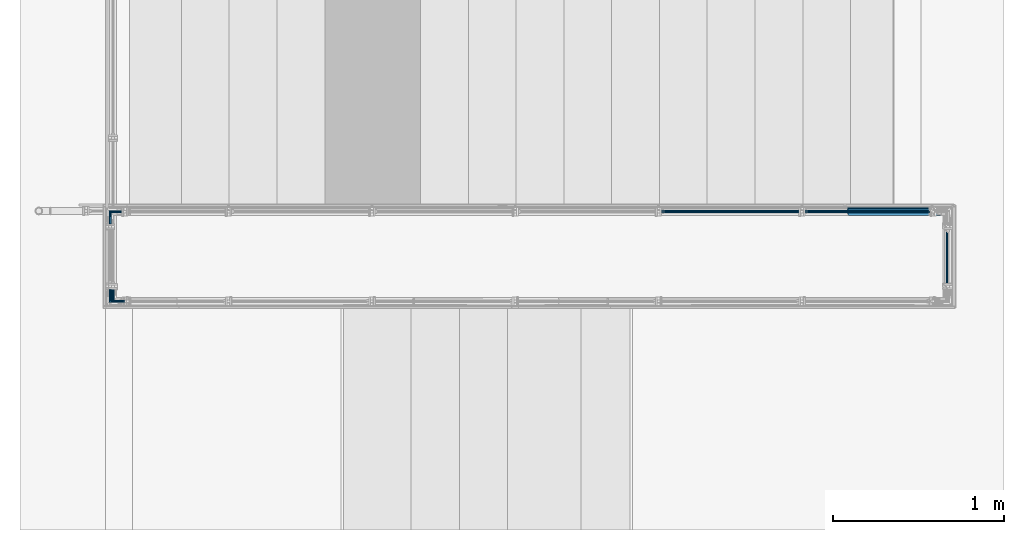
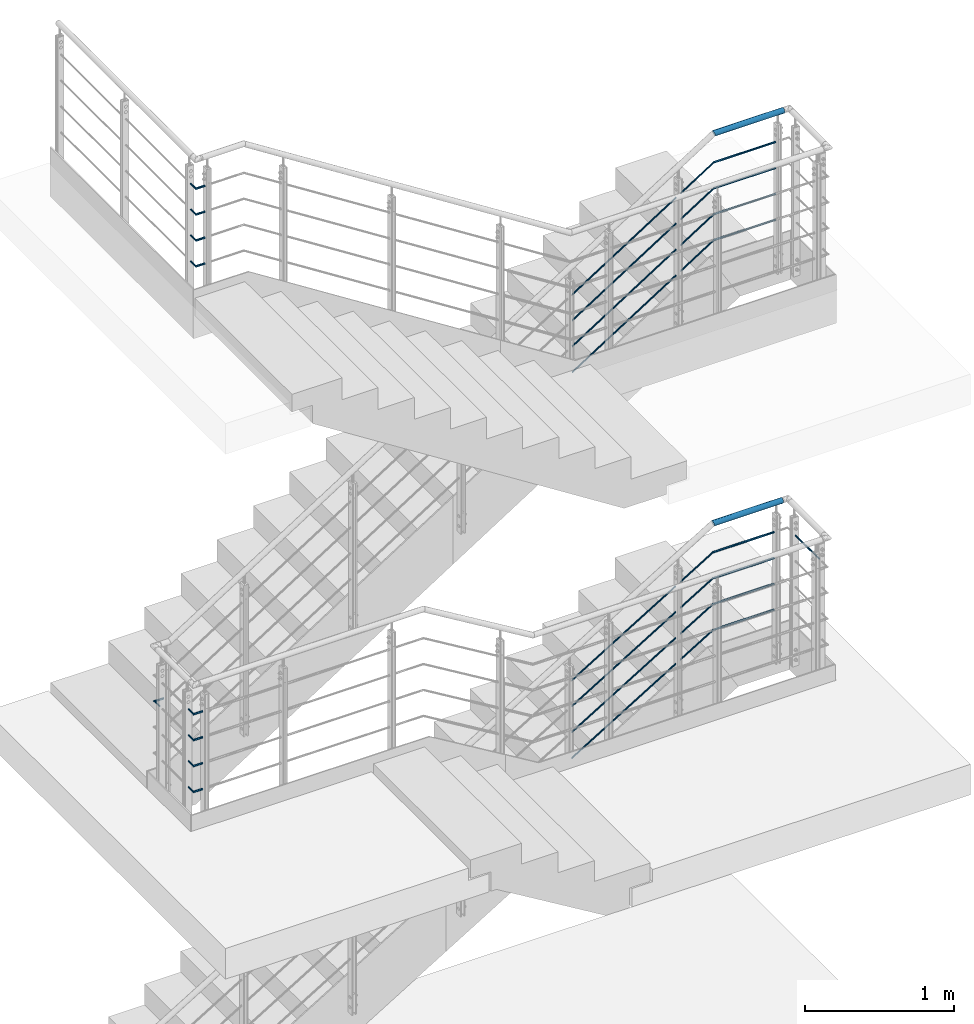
# One storey, part 14 of 98: 29 beams, 16 members.
"""IFC2X3 building model written with IfcOpenShell, lengths in millimetres."""

from ifc_helpers import new_model, entity, si_unit, converted_unit, frame, origin, origin_with_axes, origin_2d, place, context, project, spatial, circle, hollow_circle, extrude, clip, halfspace, material, element, save


model = new_model("IFC2X3")

# Units and contexts
model_context = context("Model", 3, precision=1e-09, world=origin_with_axes())
ifc_project = project(units=[si_unit("LENGTHUNIT", "METRE", prefix="MILLI"), si_unit("AREAUNIT", "SQUARE_METRE"), si_unit("VOLUMEUNIT", "CUBIC_METRE"), converted_unit("PLANEANGLEUNIT", "DEGREE", entity("IfcPlaneAngleMeasure", 0.01745329), si_unit("PLANEANGLEUNIT", "RADIAN"), dimensions=[0, 0, 0, 0, 0, 0, 0])], contexts=[model_context])

# Site, building, storey
site_placement = place(None, origin_with_axes())
site = spatial("IfcSite", under=ifc_project, at=site_placement, Name="Maybachstra?e 2, 71563 Affalterbach", CompositionType="ELEMENT")
building_placement = place(site_placement, origin_with_axes())
building = spatial("IfcBuilding", under=site, at=building_placement, Name="Struktur 1", CompositionType="ELEMENT")
storey_placement = place(building_placement, origin_with_axes())
storey = spatial("IfcBuildingStorey", under=building, at=storey_placement, Name="Default Storey", CompositionType="ELEMENT", Elevation=0.0)

# Beams
ifc_material_1 = material(Name="S235JR")
beam_1_placement = place(None, frame((7338.029157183, -501.25, 8323.799999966), z_axis=(0.0, 1.0, 0.0), x_axis=(0.0, 0.0, 1.0)))
element("IfcBeam", 1, at=beam_1_placement, inside=storey, material=ifc_material_1, Name="-", ObjectType="-", context=model_context, shape_type="Clipping", body=[
    clip(extrude(circle(Radius=6.0, at=origin_2d()), origin(), (0.0, 0.0, -1.0), 80.75), halfspace(frame((-8323.799999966, -3384.015285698, -3452.763871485), z_axis=(0.0, -0.707106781, 0.707106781), x_axis=(0.0, -0.707106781, -0.707106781)), True)),
])
beam_2_placement = place(None, frame((7321.028157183, -33.0, 4028.8), z_axis=(0.0, 1.0, 0.0), x_axis=(0.0, 0.0, 1.0)))
element("IfcBeam", 2, at=beam_2_placement, inside=storey, material=ifc_material_1, Name="-", ObjectType="-", context=model_context, shape_type="Clipping", body=[
    clip(extrude(circle(Radius=6.0, at=origin_2d()), origin(), (0.0, 0.0, -1.0), 80.75), halfspace(frame((-4028.8, -3683.014785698, 3671.013371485), z_axis=(0.0, -0.707106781, -0.707106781), x_axis=(0.0, 0.707106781, -0.707106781)), True)),
])
beam_3_placement = place(None, frame((7321.028157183, -500.25, 4028.8), z_axis=(0.0, 1.0, 0.0), x_axis=(0.0, 0.0, 1.0)))
element("IfcBeam", 3, at=beam_3_placement, inside=storey, material=ifc_material_1, Name="-", ObjectType="-", context=model_context, shape_type="Clipping", body=[
    clip(extrude(circle(Radius=6.0, at=origin_2d()), origin(), (0.0, 0.0, -1.0), 80.75), halfspace(frame((-4028.8, -3376.014785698, -3444.763371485), z_axis=(0.0, -0.707106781, 0.707106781), x_axis=(0.0, -0.707106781, -0.707106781)), True)),
])
beam_4_placement = place(None, frame((11640.370811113, -45.0, 6711.3), z_axis=(-1.0, 0.0, 0.0), x_axis=(0.0, -1.0, 0.0)))
element("IfcBeam", 4, at=beam_4_placement, inside=storey, material=ifc_material_1, Name="-", ObjectType="-", context=model_context, shape_type="Clipping", body=[
    clip(extrude(circle(Radius=6.0, at=origin_2d()), origin(), (0.0, 0.0, -1.0), 485.40834607), halfspace(frame((-45.0, -3058.045325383, -899.726744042), z_axis=(0.0, 0.279698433, -0.960087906), x_axis=(-1.0, 0.0, 0.0)), True)),
])
beam_5_placement = place(None, frame((7326.029157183, -570.0, 8323.799999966), z_axis=(-1.0, 0.0, 0.0), x_axis=(0.0, 0.0, -1.0)))
element("IfcBeam", 5, at=beam_5_placement, inside=storey, material=ifc_material_1, Name="-", ObjectType="-", context=model_context, shape_type="Clipping", body=[
    clip(extrude(circle(Radius=6.0, at=origin_2d()), origin(), (0.0, 0.0, -1.0), 80.75), halfspace(frame((8323.799999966, 3384.015285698, 3372.013871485), z_axis=(0.0, 0.707106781, -0.707106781), x_axis=(0.0, -0.707106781, -0.707106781)), True)),
])
beam_6_placement = place(None, frame((7309.028157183, -45.0, 4028.8), z_axis=(-1.0, 0.0, 0.0), x_axis=(0.0, -1.0, 0.0)))
element("IfcBeam", 6, at=beam_6_placement, inside=storey, material=ifc_material_1, Name="-", ObjectType="-", context=model_context, shape_type="Clipping", body=[
    clip(extrude(circle(Radius=6.0, at=origin_2d()), origin(), (0.0, 0.0, -1.0), 80.751), halfspace(frame((-3683.014785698, -4028.8, 3671.013371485), z_axis=(-0.707106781, 0.0, -0.707106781), x_axis=(-0.707106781, 0.0, 0.707106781)), True)),
])
beam_7_placement = place(None, frame((12118.779157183, -40.0, 3518.8), z_axis=(1.0, 0.0, 0.0), x_axis=(0.0, 1.0, 0.0)))
element("IfcBeam", 7, at=beam_7_placement, inside=storey, material=ifc_material_1, Name="-", ObjectType="-", context=model_context, shape_type="Clipping", body=[
    clip(extrude(circle(Radius=6.0, at=origin_2d()), origin(), (0.0, 0.0, -1.0), 481.615707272), halfspace(frame((40.0, -235.549386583, -406.770254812), z_axis=(0.0, 0.269926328, 0.962880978), x_axis=(1.0, 0.0, 0.0)), True)),
])

# Members
member_1_placement = place(None, frame((11653.504081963, -40.0, 3523.380801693), z_axis=(0.854279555, 0.0, 0.519813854), x_axis=(0.0, 1.0, 0.0)))
element("IfcMember", 8, at=member_1_placement, inside=storey, material=ifc_material_1, Name="-", ObjectType="-", context=model_context, shape_type="Clipping", body=[
    clip(clip(extrude(circle(Radius=6.0, at=origin_2d()), origin(), (0.0, 0.0, -1.0), 314.545987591), halfspace(frame((40.0, -235.549386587, -74.845452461), z_axis=(0.0, 0.269926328, -0.962880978), x_axis=(-1.0, 0.0, 0.0)), True)), halfspace(frame((40.0, -2874.684180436, -2053.806131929), z_axis=(0.0, -0.519813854, 0.854279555), x_axis=(1.0, 0.0, 0.0)), True)),
])
member_2_placement = place(None, frame((11365.264438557, -40.0, 3347.992125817), z_axis=(0.854279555, 0.0, 0.519813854), x_axis=(0.0, 1.0, 0.0)))
element("IfcMember", 9, at=member_2_placement, inside=storey, material=ifc_material_1, Name="-", ObjectType="-", context=model_context, shape_type="Clipping", body=[
    clip(clip(extrude(circle(Radius=6.0, at=origin_2d()), origin(), (0.0, 0.0, -1.0), 960.423971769), halfspace(frame((40.0, -2855.709935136, -1747.582346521), z_axis=(0.0, 0.519813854, -0.854279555), x_axis=(-1.0, 0.0, 0.0)), True)), halfspace(frame((40.0, -2438.040543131, -2433.994260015), z_axis=(0.0, -0.519813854, 0.854279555), x_axis=(1.0, 0.0, 0.0)), True)),
])
member_3_placement = place(None, frame((10544.793875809, -45.0, 6008.132360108), z_axis=(-0.843537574, 0.0, -0.537070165), x_axis=(0.0, -1.0, 0.0)))
element("IfcMember", 10, at=member_3_placement, inside=storey, material=ifc_material_1, Name="-", ObjectType="-", context=model_context, shape_type="Clipping", body=[
    clip(clip(extrude(circle(Radius=6.0, at=origin_2d()), origin(), (0.0, 0.0, -1.0), 972.654435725), halfspace(frame((-45.0, -5504.177925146, 2541.849385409), z_axis=(0.0, 0.537070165, 0.843537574), x_axis=(1.0, 0.0, 0.0)), True)), halfspace(frame((-45.0, -5072.643121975, 3219.630138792), z_axis=(0.0, -0.537070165, -0.843537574), x_axis=(-1.0, 0.0, 0.0)), True)),
])
member_4_placement = place(None, frame((11384.793875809, -45.0, 6542.950194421), z_axis=(-0.843537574, 0.0, -0.537070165), x_axis=(0.0, -1.0, 0.0)))
element("IfcMember", 11, at=member_4_placement, inside=storey, material=ifc_material_1, Name="-", ObjectType="-", context=model_context, shape_type="Clipping", body=[
    clip(clip(extrude(circle(Radius=6.0, at=origin_2d()), origin(), (0.0, 0.0, -1.0), 322.29763775), halfspace(frame((-45.0, -3058.045325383, 577.429106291), z_axis=(0.0, 0.279698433, 0.960087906), x_axis=(1.0, 0.0, 0.0)), True)), halfspace(frame((-45.0, -5523.782060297, 3506.864841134), z_axis=(0.0, -0.537070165, -0.843537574), x_axis=(-1.0, 0.0, 0.0)), True)),
])

# Beams
beam_8_placement = place(None, frame((7309.028157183, -569.0, 4028.8), z_axis=(-1.0, 0.0, 0.0), x_axis=(0.0, 0.0, -1.0)))
element("IfcBeam", 12, at=beam_8_placement, inside=storey, material=ifc_material_1, Name="-", ObjectType="-", context=model_context, shape_type="Clipping", body=[
    clip(extrude(circle(Radius=6.0, at=origin_2d()), origin(), (0.0, 0.0, -1.0), 80.751), halfspace(frame((4028.8, 3376.014785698, 3364.013371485), z_axis=(0.0, 0.707106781, -0.707106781), x_axis=(0.0, -0.707106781, -0.707106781)), True)),
])
beam_9_placement = place(None, frame((7338.029157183, -501.25, 7899.799999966), z_axis=(0.0, 1.0, 0.0), x_axis=(0.0, 0.0, 1.0)))
element("IfcBeam", 13, at=beam_9_placement, inside=storey, material=ifc_material_1, Name="-", ObjectType="-", context=model_context, shape_type="Clipping", body=[
    clip(extrude(circle(Radius=6.0, at=origin_2d()), origin(), (0.0, 0.0, -1.0), 80.75), halfspace(frame((-7899.799999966, -3384.015285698, -3452.763871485), z_axis=(0.0, -0.707106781, 0.707106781), x_axis=(0.0, -0.707106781, -0.707106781)), True)),
])
beam_10_placement = place(None, frame((7321.028157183, -500.25, 3604.8), z_axis=(0.0, 1.0, 0.0), x_axis=(0.0, 0.0, 1.0)))
element("IfcBeam", 14, at=beam_10_placement, inside=storey, material=ifc_material_1, Name="-", ObjectType="-", context=model_context, shape_type="Clipping", body=[
    clip(extrude(circle(Radius=6.0, at=origin_2d()), origin(), (0.0, 0.0, -1.0), 80.75), halfspace(frame((-3604.8, -3376.014785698, -3444.763371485), z_axis=(0.0, -0.707106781, 0.707106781), x_axis=(0.0, -0.707106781, -0.707106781)), True)),
])
beam_11_placement = place(None, frame((11640.370811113, -45.0, 6287.3), z_axis=(-1.0, 0.0, 0.0), x_axis=(0.0, -1.0, 0.0)))
element("IfcBeam", 15, at=beam_11_placement, inside=storey, material=ifc_material_1, Name="-", ObjectType="-", context=model_context, shape_type="Clipping", body=[
    clip(extrude(circle(Radius=6.0, at=origin_2d()), origin(), (0.0, 0.0, -1.0), 485.40834607), halfspace(frame((-45.0, -2667.215359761, -785.867869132), z_axis=(0.0, 0.279698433, -0.960087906), x_axis=(-1.0, 0.0, 0.0)), True)),
])
beam_12_placement = place(None, frame((7326.029157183, -570.0, 7899.799999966), z_axis=(-1.0, 0.0, 0.0), x_axis=(0.0, 0.0, -1.0)))
element("IfcBeam", 16, at=beam_12_placement, inside=storey, material=ifc_material_1, Name="-", ObjectType="-", context=model_context, shape_type="Clipping", body=[
    clip(extrude(circle(Radius=6.0, at=origin_2d()), origin(), (0.0, 0.0, -1.0), 80.75), halfspace(frame((7899.799999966, 3384.015285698, 3372.013871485), z_axis=(0.0, 0.707106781, -0.707106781), x_axis=(0.0, -0.707106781, -0.707106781)), True)),
])
beam_13_placement = place(None, frame((12118.779157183, -40.0, 3094.8), z_axis=(1.0, 0.0, 0.0), x_axis=(0.0, 1.0, 0.0)))
element("IfcBeam", 17, at=beam_13_placement, inside=storey, material=ifc_material_1, Name="-", ObjectType="-", context=model_context, shape_type="Clipping", body=[
    clip(extrude(circle(Radius=6.0, at=origin_2d()), origin(), (0.0, 0.0, -1.0), 481.615707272), halfspace(frame((40.0, 157.557878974, -516.970791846), z_axis=(0.0, 0.269926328, 0.962880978), x_axis=(1.0, 0.0, 0.0)), True)),
])

# Members
member_5_placement = place(None, frame((11653.504081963, -40.0, 3099.380801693), z_axis=(0.854279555, 0.0, 0.519813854), x_axis=(0.0, 1.0, 0.0)))
element("IfcMember", 18, at=member_5_placement, inside=storey, material=ifc_material_1, Name="-", ObjectType="-", context=model_context, shape_type="Clipping", body=[
    clip(clip(extrude(circle(Radius=6.0, at=origin_2d()), origin(), (0.0, 0.0, -1.0), 314.545987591), halfspace(frame((40.0, 157.55787897, 35.355084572), z_axis=(0.0, 0.269926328, -0.962880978), x_axis=(-1.0, 0.0, 0.0)), True)), halfspace(frame((40.0, -2512.469649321, -1833.405057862), z_axis=(0.0, -0.519813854, 0.854279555), x_axis=(1.0, 0.0, 0.0)), True)),
])
member_6_placement = place(None, frame((11365.264438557, -40.0, 2923.992125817), z_axis=(0.854279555, 0.0, 0.519813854), x_axis=(0.0, 1.0, 0.0)))
element("IfcMember", 19, at=member_6_placement, inside=storey, material=ifc_material_1, Name="-", ObjectType="-", context=model_context, shape_type="Clipping", body=[
    clip(clip(extrude(circle(Radius=6.0, at=origin_2d()), origin(), (0.0, 0.0, -1.0), 960.423971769), halfspace(frame((40.0, -2493.495404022, -1527.181272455), z_axis=(0.0, 0.519813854, -0.854279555), x_axis=(-1.0, 0.0, 0.0)), True)), halfspace(frame((40.0, -2075.826012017, -2213.593185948), z_axis=(0.0, -0.519813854, 0.854279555), x_axis=(1.0, 0.0, 0.0)), True)),
])
member_7_placement = place(None, frame((10544.793875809, -45.0, 5584.132360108), z_axis=(-0.843537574, 0.0, -0.537070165), x_axis=(0.0, -1.0, 0.0)))
element("IfcMember", 20, at=member_7_placement, inside=storey, material=ifc_material_1, Name="-", ObjectType="-", context=model_context, shape_type="Clipping", body=[
    clip(clip(extrude(circle(Radius=6.0, at=origin_2d()), origin(), (0.0, 0.0, -1.0), 972.654435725), halfspace(frame((-45.0, -5146.517993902, 2314.13163559), z_axis=(0.0, 0.537070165, 0.843537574), x_axis=(1.0, 0.0, 0.0)), True)), halfspace(frame((-45.0, -4714.983190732, 2991.912388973), z_axis=(0.0, -0.537070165, -0.843537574), x_axis=(-1.0, 0.0, 0.0)), True)),
])
member_8_placement = place(None, frame((11384.793875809, -45.0, 6118.950194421), z_axis=(-0.843537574, 0.0, -0.537070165), x_axis=(0.0, -1.0, 0.0)))
element("IfcMember", 21, at=member_8_placement, inside=storey, material=ifc_material_1, Name="-", ObjectType="-", context=model_context, shape_type="Clipping", body=[
    clip(clip(extrude(circle(Radius=6.0, at=origin_2d()), origin(), (0.0, 0.0, -1.0), 322.29763775), halfspace(frame((-45.0, -2667.215359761, 463.570231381), z_axis=(0.0, 0.279698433, 0.960087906), x_axis=(1.0, 0.0, 0.0)), True)), halfspace(frame((-45.0, -5166.122129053, 3279.147091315), z_axis=(0.0, -0.537070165, -0.843537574), x_axis=(-1.0, 0.0, 0.0)), True)),
])

# Beams
beam_14_placement = place(None, frame((7309.028157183, -569.0, 3604.8), z_axis=(-1.0, 0.0, 0.0), x_axis=(0.0, 0.0, -1.0)))
element("IfcBeam", 22, at=beam_14_placement, inside=storey, material=ifc_material_1, Name="-", ObjectType="-", context=model_context, shape_type="Clipping", body=[
    clip(extrude(circle(Radius=6.0, at=origin_2d()), origin(), (0.0, 0.0, -1.0), 80.751), halfspace(frame((3604.8, 3376.014785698, 3364.013371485), z_axis=(0.0, 0.707106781, -0.707106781), x_axis=(0.0, -0.707106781, -0.707106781)), True)),
])
beam_15_placement = place(None, frame((7338.029157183, -501.25, 8111.799999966), z_axis=(0.0, 1.0, 0.0), x_axis=(0.0, 0.0, 1.0)))
element("IfcBeam", 23, at=beam_15_placement, inside=storey, material=ifc_material_1, Name="-", ObjectType="-", context=model_context, shape_type="Clipping", body=[
    clip(extrude(circle(Radius=6.0, at=origin_2d()), origin(), (0.0, 0.0, -1.0), 80.75), halfspace(frame((-8111.799999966, -3384.015285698, -3452.763871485), z_axis=(0.0, -0.707106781, 0.707106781), x_axis=(0.0, -0.707106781, -0.707106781)), True)),
])
beam_16_placement = place(None, frame((7321.028157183, -500.25, 3816.8), z_axis=(0.0, 1.0, 0.0), x_axis=(0.0, 0.0, 1.0)))
element("IfcBeam", 24, at=beam_16_placement, inside=storey, material=ifc_material_1, Name="-", ObjectType="-", context=model_context, shape_type="Clipping", body=[
    clip(extrude(circle(Radius=6.0, at=origin_2d()), origin(), (0.0, 0.0, -1.0), 80.75), halfspace(frame((-3816.8, -3376.014785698, -3444.763371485), z_axis=(0.0, -0.707106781, 0.707106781), x_axis=(0.0, -0.707106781, -0.707106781)), True)),
])
beam_17_placement = place(None, frame((11640.370811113, -45.0, 6499.3), z_axis=(-1.0, 0.0, 0.0), x_axis=(0.0, -1.0, 0.0)))
element("IfcBeam", 25, at=beam_17_placement, inside=storey, material=ifc_material_1, Name="-", ObjectType="-", context=model_context, shape_type="Clipping", body=[
    clip(extrude(circle(Radius=6.0, at=origin_2d()), origin(), (0.0, 0.0, -1.0), 485.40834607), halfspace(frame((-45.0, -2862.630342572, -842.797306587), z_axis=(0.0, 0.279698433, -0.960087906), x_axis=(-1.0, 0.0, 0.0)), True)),
])
beam_18_placement = place(None, frame((7326.029157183, -570.0, 8111.799999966), z_axis=(-1.0, 0.0, 0.0), x_axis=(0.0, 0.0, -1.0)))
element("IfcBeam", 26, at=beam_18_placement, inside=storey, material=ifc_material_1, Name="-", ObjectType="-", context=model_context, shape_type="Clipping", body=[
    clip(extrude(circle(Radius=6.0, at=origin_2d()), origin(), (0.0, 0.0, -1.0), 80.75), halfspace(frame((8111.799999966, 3384.015285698, 3372.013871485), z_axis=(0.0, 0.707106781, -0.707106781), x_axis=(0.0, -0.707106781, -0.707106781)), True)),
])
beam_19_placement = place(None, frame((12118.779157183, -40.0, 3306.8), z_axis=(1.0, 0.0, 0.0), x_axis=(0.0, 1.0, 0.0)))
element("IfcBeam", 27, at=beam_19_placement, inside=storey, material=ifc_material_1, Name="-", ObjectType="-", context=model_context, shape_type="Clipping", body=[
    clip(extrude(circle(Radius=6.0, at=origin_2d()), origin(), (0.0, 0.0, -1.0), 481.615707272), halfspace(frame((40.0, -38.995753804, -461.870523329), z_axis=(0.0, 0.269926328, 0.962880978), x_axis=(1.0, 0.0, 0.0)), True)),
])

# Members
member_9_placement = place(None, frame((11653.504081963, -40.0, 3311.380801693), z_axis=(0.854279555, 0.0, 0.519813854), x_axis=(0.0, 1.0, 0.0)))
element("IfcMember", 28, at=member_9_placement, inside=storey, material=ifc_material_1, Name="-", ObjectType="-", context=model_context, shape_type="Clipping", body=[
    clip(clip(extrude(circle(Radius=6.0, at=origin_2d()), origin(), (0.0, 0.0, -1.0), 314.545987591), halfspace(frame((40.0, -38.995753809, -19.745183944), z_axis=(0.0, 0.269926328, -0.962880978), x_axis=(-1.0, 0.0, 0.0)), True)), halfspace(frame((40.0, -2693.576914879, -1943.605594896), z_axis=(0.0, -0.519813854, 0.854279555), x_axis=(1.0, 0.0, 0.0)), True)),
])
member_10_placement = place(None, frame((11365.264438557, -40.0, 3135.992125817), z_axis=(0.854279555, 0.0, 0.519813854), x_axis=(0.0, 1.0, 0.0)))
element("IfcMember", 29, at=member_10_placement, inside=storey, material=ifc_material_1, Name="-", ObjectType="-", context=model_context, shape_type="Clipping", body=[
    clip(clip(extrude(circle(Radius=6.0, at=origin_2d()), origin(), (0.0, 0.0, -1.0), 960.423971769), halfspace(frame((40.0, -2674.602669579, -1637.381809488), z_axis=(0.0, 0.519813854, -0.854279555), x_axis=(-1.0, 0.0, 0.0)), True)), halfspace(frame((40.0, -2256.933277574, -2323.793722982), z_axis=(0.0, -0.519813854, 0.854279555), x_axis=(1.0, 0.0, 0.0)), True)),
])
member_11_placement = place(None, frame((10544.793875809, -45.0, 5796.132360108), z_axis=(-0.843537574, 0.0, -0.537070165), x_axis=(0.0, -1.0, 0.0)))
element("IfcMember", 30, at=member_11_placement, inside=storey, material=ifc_material_1, Name="-", ObjectType="-", context=model_context, shape_type="Clipping", body=[
    clip(clip(extrude(circle(Radius=6.0, at=origin_2d()), origin(), (0.0, 0.0, -1.0), 972.654435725), halfspace(frame((-45.0, -5325.347959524, 2427.990510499), z_axis=(0.0, 0.537070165, 0.843537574), x_axis=(1.0, 0.0, 0.0)), True)), halfspace(frame((-45.0, -4893.813156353, 3105.771263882), z_axis=(0.0, -0.537070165, -0.843537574), x_axis=(-1.0, 0.0, 0.0)), True)),
])
member_12_placement = place(None, frame((11384.793875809, -45.0, 6330.950194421), z_axis=(-0.843537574, 0.0, -0.537070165), x_axis=(0.0, -1.0, 0.0)))
element("IfcMember", 31, at=member_12_placement, inside=storey, material=ifc_material_1, Name="-", ObjectType="-", context=model_context, shape_type="Clipping", body=[
    clip(clip(extrude(circle(Radius=6.0, at=origin_2d()), origin(), (0.0, 0.0, -1.0), 322.29763775), halfspace(frame((-45.0, -2862.630342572, 520.499668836), z_axis=(0.0, 0.279698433, 0.960087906), x_axis=(1.0, 0.0, 0.0)), True)), halfspace(frame((-45.0, -5344.952094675, 3393.005966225), z_axis=(0.0, -0.537070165, -0.843537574), x_axis=(-1.0, 0.0, 0.0)), True)),
])

# Beams
beam_20_placement = place(None, frame((7309.028157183, -569.0, 3816.8), z_axis=(-1.0, 0.0, 0.0), x_axis=(0.0, 0.0, -1.0)))
element("IfcBeam", 32, at=beam_20_placement, inside=storey, material=ifc_material_1, Name="-", ObjectType="-", context=model_context, shape_type="Clipping", body=[
    clip(extrude(circle(Radius=6.0, at=origin_2d()), origin(), (0.0, 0.0, -1.0), 80.751), halfspace(frame((3816.8, 3376.014785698, 3364.013371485), z_axis=(0.0, 0.707106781, -0.707106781), x_axis=(0.0, -0.707106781, -0.707106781)), True)),
])
ifc_material_2 = material(Name="1.4301")
beam_21_placement = place(None, frame((11617.981146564, -45.0, 7161.3), z_axis=(-1.0, 0.0, 0.0), x_axis=(0.0, -1.0, 0.0)))
element("IfcBeam", 33, at=beam_21_placement, inside=storey, material=ifc_material_2, Name="-", ObjectType="-", context=model_context, shape_type="Clipping", body=[
    clip(extrude(hollow_circle(Radius=21.2, WallThickness=3.0, at=origin_2d()), origin(), (0.0, 0.0, -1.0), 569.251010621), halfspace(frame((-45.0, -3472.841279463, -1042.957195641), z_axis=(0.0, 0.279698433, -0.960087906), x_axis=(-1.0, 0.0, 0.0)), True)),
])
beam_22_placement = place(None, frame((12180.232157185, -40.0, 3968.8), z_axis=(1.0, 0.0, 0.0), x_axis=(0.0, 1.0, 0.0)))
element("IfcBeam", 34, at=beam_22_placement, inside=storey, material=ifc_material_2, Name="-", ObjectType="-", context=model_context, shape_type="Clipping", body=[
    clip(extrude(hollow_circle(Radius=21.2, WallThickness=3.0, at=origin_2d()), origin(), (0.0, 0.0, -1.0), 565.393425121), halfspace(frame((40.0, -652.762286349, -351.26513768), z_axis=(0.0, 0.269926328, 0.962880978), x_axis=(1.0, 0.0, 0.0)), True)),
])
beam_23_placement = place(None, frame((7326.029157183, -570.0, 8535.799999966), z_axis=(-1.0, 0.0, 0.0), x_axis=(0.0, 0.0, -1.0)))
element("IfcBeam", 35, at=beam_23_placement, inside=storey, material=ifc_material_1, Name="-", ObjectType="-", context=model_context, shape_type="Clipping", body=[
    clip(extrude(circle(Radius=6.0, at=origin_2d()), origin(), (0.0, 0.0, -1.0), 80.75), halfspace(frame((8535.799999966, 3384.015285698, 3372.013871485), z_axis=(0.0, 0.707106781, -0.707106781), x_axis=(0.0, -0.707106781, -0.707106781)), True)),
])
beam_24_placement = place(None, frame((11640.370811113, -45.0, 6923.3), z_axis=(-1.0, 0.0, 0.0), x_axis=(0.0, -1.0, 0.0)))
element("IfcBeam", 36, at=beam_24_placement, inside=storey, material=ifc_material_1, Name="-", ObjectType="-", context=model_context, shape_type="Clipping", body=[
    clip(extrude(circle(Radius=6.0, at=origin_2d()), origin(), (0.0, 0.0, -1.0), 485.40834607), halfspace(frame((-45.0, -3253.460308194, -956.656181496), z_axis=(0.0, 0.279698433, -0.960087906), x_axis=(-1.0, 0.0, 0.0)), True)),
])

# Members
member_13_placement = place(None, frame((10544.793875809, -45.0, 6220.132360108), z_axis=(-0.843537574, 0.0, -0.537070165), x_axis=(0.0, -1.0, 0.0)))
element("IfcMember", 37, at=member_13_placement, inside=storey, material=ifc_material_1, Name="-", ObjectType="-", context=model_context, shape_type="Clipping", body=[
    clip(clip(extrude(circle(Radius=6.0, at=origin_2d()), origin(), (0.0, 0.0, -1.0), 972.654435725), halfspace(frame((-45.0, -5683.007890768, 2655.708260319), z_axis=(0.0, 0.537070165, 0.843537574), x_axis=(1.0, 0.0, 0.0)), True)), halfspace(frame((-45.0, -5251.473087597, 3333.489013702), z_axis=(0.0, -0.537070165, -0.843537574), x_axis=(-1.0, 0.0, 0.0)), True)),
])
member_14_placement = place(None, frame((11384.793875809, -45.0, 6754.950194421), z_axis=(-0.843537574, 0.0, -0.537070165), x_axis=(0.0, -1.0, 0.0)))
element("IfcMember", 38, at=member_14_placement, inside=storey, material=ifc_material_1, Name="-", ObjectType="-", context=model_context, shape_type="Clipping", body=[
    clip(clip(extrude(circle(Radius=6.0, at=origin_2d()), origin(), (0.0, 0.0, -1.0), 322.29763775), halfspace(frame((-45.0, -3253.460308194, 634.358543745), z_axis=(0.0, 0.279698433, 0.960087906), x_axis=(1.0, 0.0, 0.0)), True)), halfspace(frame((-45.0, -5702.612025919, 3620.723716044), z_axis=(0.0, -0.537070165, -0.843537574), x_axis=(-1.0, 0.0, 0.0)), True)),
])

# Beams
beam_25_placement = place(None, frame((7309.028157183, -569.0, 4240.8), z_axis=(-1.0, 0.0, 0.0), x_axis=(0.0, 0.0, -1.0)))
element("IfcBeam", 39, at=beam_25_placement, inside=storey, material=ifc_material_1, Name="-", ObjectType="-", context=model_context, shape_type="Clipping", body=[
    clip(extrude(circle(Radius=6.0, at=origin_2d()), origin(), (0.0, 0.0, -1.0), 80.751), halfspace(frame((4240.8, 3376.014785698, 3364.013371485), z_axis=(0.0, 0.707106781, -0.707106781), x_axis=(0.0, -0.707106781, -0.707106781)), True)),
])
beam_26_placement = place(None, frame((12118.779157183, -40.0, 3730.8), z_axis=(1.0, 0.0, 0.0), x_axis=(0.0, 1.0, 0.0)))
element("IfcBeam", 40, at=beam_26_placement, inside=storey, material=ifc_material_1, Name="-", ObjectType="-", context=model_context, shape_type="Clipping", body=[
    clip(extrude(circle(Radius=6.0, at=origin_2d()), origin(), (0.0, 0.0, -1.0), 481.615707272), halfspace(frame((40.0, -432.103019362, -351.669986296), z_axis=(0.0, 0.269926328, 0.962880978), x_axis=(1.0, 0.0, 0.0)), True)),
])

# Members
member_15_placement = place(None, frame((11653.504081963, -40.0, 3735.380801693), z_axis=(0.854279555, 0.0, 0.519813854), x_axis=(0.0, 1.0, 0.0)))
element("IfcMember", 41, at=member_15_placement, inside=storey, material=ifc_material_1, Name="-", ObjectType="-", context=model_context, shape_type="Clipping", body=[
    clip(clip(extrude(circle(Radius=6.0, at=origin_2d()), origin(), (0.0, 0.0, -1.0), 314.545987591), halfspace(frame((40.0, -432.103019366, -129.945720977), z_axis=(0.0, 0.269926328, -0.962880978), x_axis=(-1.0, 0.0, 0.0)), True)), halfspace(frame((40.0, -3055.791445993, -2164.006668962), z_axis=(0.0, -0.519813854, 0.854279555), x_axis=(1.0, 0.0, 0.0)), True)),
])
member_16_placement = place(None, frame((11365.264438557, -40.0, 3559.992125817), z_axis=(0.854279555, 0.0, 0.519813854), x_axis=(0.0, 1.0, 0.0)))
element("IfcMember", 42, at=member_16_placement, inside=storey, material=ifc_material_1, Name="-", ObjectType="-", context=model_context, shape_type="Clipping", body=[
    clip(clip(extrude(circle(Radius=6.0, at=origin_2d()), origin(), (0.0, 0.0, -1.0), 960.423971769), halfspace(frame((40.0, -3036.817200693, -1857.782883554), z_axis=(0.0, 0.519813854, -0.854279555), x_axis=(-1.0, 0.0, 0.0)), True)), halfspace(frame((40.0, -2619.147808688, -2544.194797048), z_axis=(0.0, -0.519813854, 0.854279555), x_axis=(1.0, 0.0, 0.0)), True)),
])

# Beams
beam_27_placement = place(None, frame((7338.029157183, -501.25, 8535.799999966), z_axis=(0.0, 1.0, 0.0), x_axis=(0.0, 0.0, 1.0)))
element("IfcBeam", 43, at=beam_27_placement, inside=storey, material=ifc_material_1, Name="-", ObjectType="-", context=model_context, shape_type="Clipping", body=[
    clip(extrude(circle(Radius=6.0, at=origin_2d()), origin(), (0.0, 0.0, -1.0), 80.75), halfspace(frame((-8535.799999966, -3384.015285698, -3452.763871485), z_axis=(0.0, -0.707106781, 0.707106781), x_axis=(0.0, -0.707106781, -0.707106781)), True)),
])
beam_28_placement = place(None, frame((12224.032157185, -145.25, 3730.8), z_axis=(0.0, 1.0, 0.0), x_axis=(0.0, 0.0, 1.0)))
element("IfcBeam", 44, at=beam_28_placement, inside=storey, material=ifc_material_1, Name="-", ObjectType="-", context=model_context, shape_type="SweptSolid", body=[
    extrude(circle(Radius=6.0, at=origin_2d()), origin(), (0.0, 0.0, -1.0), 318.5),
])
beam_29_placement = place(None, frame((7321.028157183, -500.25, 4240.8), z_axis=(0.0, 1.0, 0.0), x_axis=(0.0, 0.0, 1.0)))
element("IfcBeam", 45, at=beam_29_placement, inside=storey, material=ifc_material_1, Name="-", ObjectType="-", context=model_context, shape_type="Clipping", body=[
    clip(extrude(circle(Radius=6.0, at=origin_2d()), origin(), (0.0, 0.0, -1.0), 80.75), halfspace(frame((-4240.8, -3376.014785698, -3444.763371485), z_axis=(0.0, -0.707106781, 0.707106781), x_axis=(0.0, -0.707106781, -0.707106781)), True)),
])

save(model, "model.ifc")
